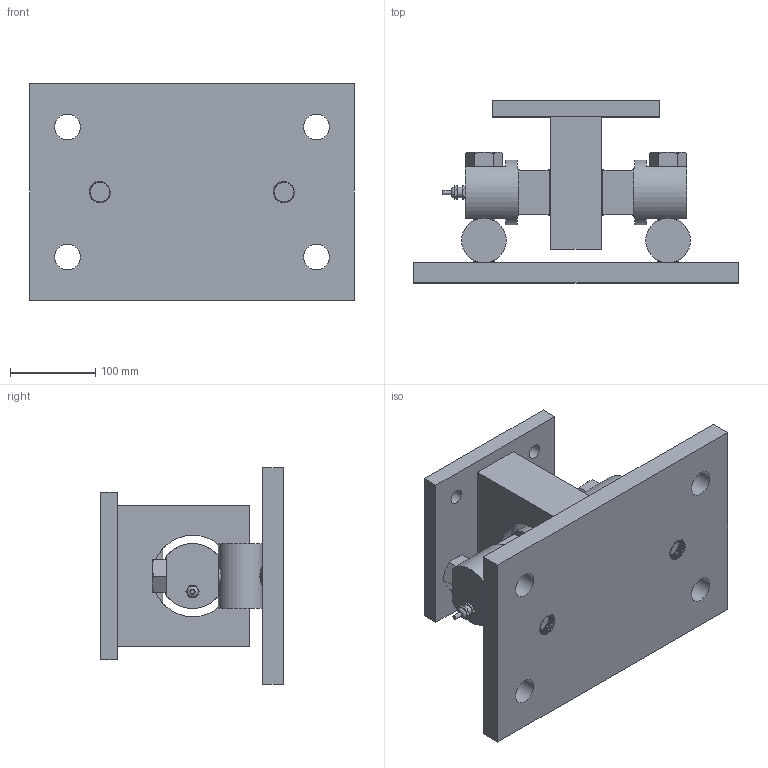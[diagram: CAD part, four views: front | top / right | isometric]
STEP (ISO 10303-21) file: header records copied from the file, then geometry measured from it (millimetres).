
FILE_DESCRIPTION(/* description */ (''),/* implementation_level */ '2;1');
FILE_NAME(/* name */ 'C:/Users/fardi/Dropbox/Work/Anyload/Load Cell Models/Product Catalog 3D/Weight Modules/102/102DSM3/102DSM3-(30-75)klb v3.step',/* time_stamp */ '2020-04-14T14:53:46-07:00',/* author */ (''),/* organization */ (''),/* preprocessor_version */ 'ST-DEVELOPER v18.1',/* originating_system */ 'Autodesk Translation Framework v9.2.0.1227',/* authorisation */ '');
FILE_SCHEMA (('AUTOMOTIVE_DESIGN { 1 0 10303 214 3 1 1 }'));
Length unit declared in the file: millimetre
Products named in the file (7): 102DSM3-(30-75)klb; Base; Support; 102DS-(30-75)klb; Connector; 91257A990; Top
Assembly tree (7 placements, depth 3):
  102DSM3-(30-75)klb
    Base
    Support
    102DS-(30-75)klb
      Connector
    91257A990  x2
    Top
Bounding box: 381 x 213.82 x 254 mm (x, y, z)
Volume: 5379442 mm3; surface area: 559147.6 mm2
Topology: 8 solids, 8 shells, 409 faces, 1083 edges, 712 vertices
Faces by surface type: cylinder 252, plane 128, cone 19, bspline 9, torus 1
Full cylindrical faces by diameter (mm): 5.1 x1, 10 x1, 12 x2, 13 x1, 17.3 x4, 23.043 x60, 23.635 x32, 25.4 x88, 26.2 x2, 26.924 x2, 30.2 x4, 52.4 x2, 76.2 x4, 95.3 x1
Entity records: 21749 total; most frequent: CARTESIAN_POINT 14759, ORIENTED_EDGE 1544, DIRECTION 1228, EDGE_CURVE 772, VERTEX_POINT 507, AXIS2_PLACEMENT_3D 440, LINE 348, VECTOR 348
